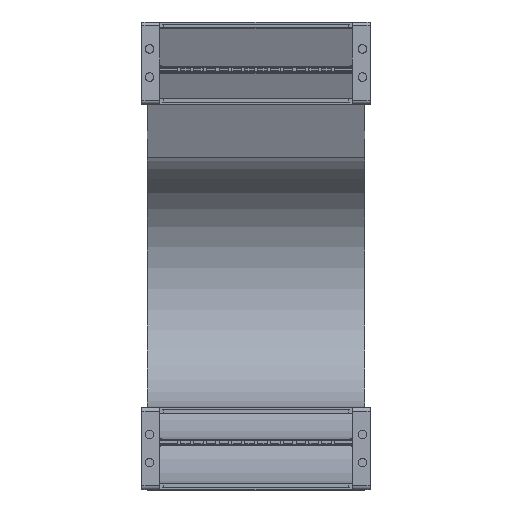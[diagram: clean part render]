
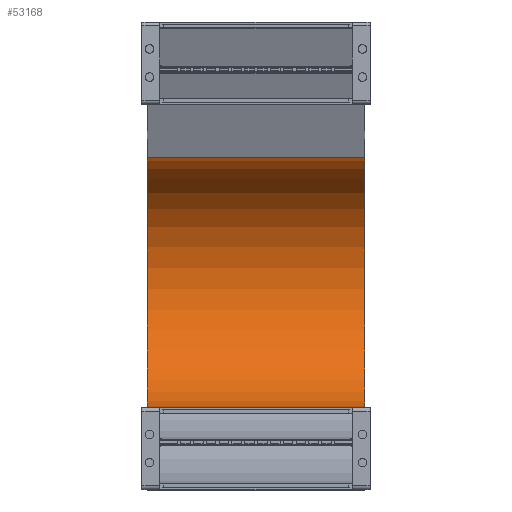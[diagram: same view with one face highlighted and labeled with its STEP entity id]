
A CAD part, top view. The second image highlights one B-rep face of the part: STEP entity #53168.
In plain terms, the highlighted cylindrical face has radius 98 mm (diameter 196 mm), a partial arc.
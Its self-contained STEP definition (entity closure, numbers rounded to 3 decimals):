
#52320=DIRECTION('',(-1.,0.,0.));
#52321=VECTOR('',#52320,170.);
#52322=CARTESIAN_POINT('',(85.,64.,-500.));
#52323=LINE('',#52322,#52321);
#52334=DIRECTION('',(-1.,0.,0.));
#52335=VECTOR('',#52334,170.);
#52336=CARTESIAN_POINT('',(85.,259.505,-509.842));
#52337=LINE('',#52336,#52335);
#52341=CARTESIAN_POINT('',(85.,162.,-500.));
#52342=DIRECTION('',(-1.,0.,0.));
#52343=DIRECTION('',(0.,0.995,-0.1));
#52344=AXIS2_PLACEMENT_3D('',#52341,#52342,#52343);
#52420=CARTESIAN_POINT('',(-85.,162.,-500.));
#52421=DIRECTION('',(-1.,0.,0.));
#52422=DIRECTION('',(0.,0.995,-0.1));
#52423=AXIS2_PLACEMENT_3D('',#52420,#52421,#52422);
#52542=CARTESIAN_POINT('',(85.,259.505,-509.842));
#52543=CARTESIAN_POINT('',(-85.,259.505,-509.842));
#52544=VERTEX_POINT('',#52542);
#52545=VERTEX_POINT('',#52543);
#52566=CARTESIAN_POINT('',(85.,64.,-500.));
#52567=CARTESIAN_POINT('',(-85.,64.,-500.));
#52568=VERTEX_POINT('',#52566);
#52569=VERTEX_POINT('',#52567);
#53154=CARTESIAN_POINT('',(1.,162.,-500.));
#53155=DIRECTION('',(-1.,0.,0.));
#53156=DIRECTION('',(0.,-0.995,0.1));
#53157=AXIS2_PLACEMENT_3D('',#53154,#53155,#53156);
#53158=CYLINDRICAL_SURFACE('',#53157,98.);
#53160=ORIENTED_EDGE('',*,*,#53159,.F.);
#53162=ORIENTED_EDGE('',*,*,#53161,.T.);
#53163=ORIENTED_EDGE('',*,*,#53137,.T.);
#53165=ORIENTED_EDGE('',*,*,#53164,.F.);
#53166=EDGE_LOOP('',(#53160,#53162,#53163,#53165));
#53167=FACE_OUTER_BOUND('',#53166,.F.);
#52345=CIRCLE('',#52344,98.);
#52424=CIRCLE('',#52423,98.);
#53137=EDGE_CURVE('',#52568,#52569,#52323,.T.);
#53159=EDGE_CURVE('',#52544,#52545,#52337,.T.);
#53161=EDGE_CURVE('',#52544,#52568,#52345,.T.);
#53164=EDGE_CURVE('',#52545,#52569,#52424,.T.);
#53168=ADVANCED_FACE('',(#53167),#53158,.F.);
